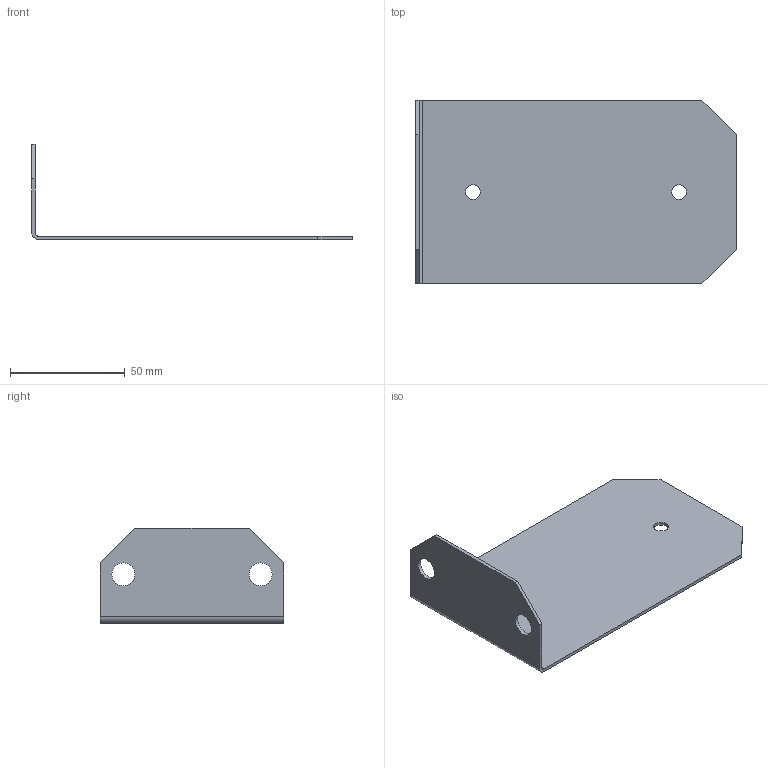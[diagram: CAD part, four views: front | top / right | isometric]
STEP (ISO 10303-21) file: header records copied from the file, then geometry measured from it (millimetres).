
FILE_DESCRIPTION (( 'STEP AP214' ), '1' );
FILE_NAME ('Plaque Tolerie.STEP', '2022-07-14T15:38:22', ( '' ), ( '' ), 'SwSTEP 2.0', 'SolidWorks 2021', '' );
FILE_SCHEMA (( 'AUTOMOTIVE_DESIGN' ));
Length unit declared in the file: millimetre
Products named in the file (1): Plaque Tolerie
Bounding box: 140 x 80 x 41.5 mm (x, y, z)
Volume: 20473.9 mm3; surface area: 28178.5 mm2
Topology: 1 solids, 1 shells, 22 faces, 60 edges, 40 vertices
Faces by surface type: plane 12, cylinder 10
Entity records: 754 total; most frequent: DIRECTION 126, CARTESIAN_POINT 123, ORIENTED_EDGE 120, EDGE_CURVE 60, AXIS2_PLACEMENT_3D 43, LINE 40, VECTOR 40, VERTEX_POINT 40
